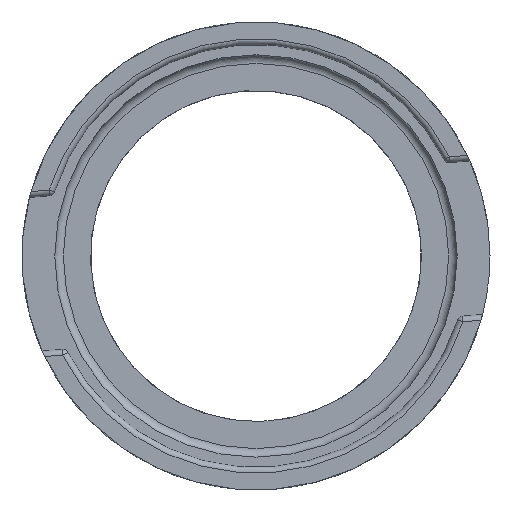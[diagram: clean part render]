
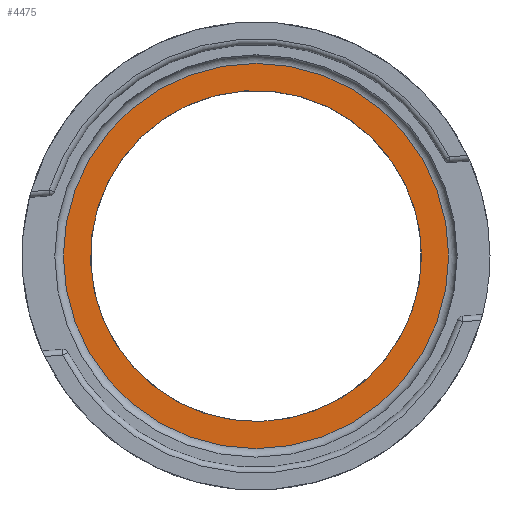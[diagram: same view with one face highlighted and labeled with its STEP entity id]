
A CAD part, top view. The second image highlights one B-rep face of the part: STEP entity #4475.
In plain terms, the highlighted planar face has unit normal (0, 0, 1).
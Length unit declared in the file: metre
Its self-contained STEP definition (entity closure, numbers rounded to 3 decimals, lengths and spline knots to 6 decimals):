
#620=CIRCLE('',#4843,0.03375);
#621=CIRCLE('',#4844,0.029);
#1470=ORIENTED_EDGE('',*,*,#2650,.T.);
#1471=ORIENTED_EDGE('',*,*,#2651,.T.);
#2650=EDGE_CURVE('',#3159,#3159,#620,.F.);
#2651=EDGE_CURVE('',#3160,#3160,#621,.T.);
#3159=VERTEX_POINT('',#11461);
#3160=VERTEX_POINT('',#11463);
#3735=EDGE_LOOP('',(#1470));
#3736=EDGE_LOOP('',(#1471));
#4039=FACE_BOUND('',#3735,.T.);
#4040=FACE_BOUND('',#3736,.T.);
#4232=PLANE('',#4842);
#4475=ADVANCED_FACE('',(#4039,#4040),#4232,.F.);
#4842=AXIS2_PLACEMENT_3D('',#11459,#5435,#5436);
#4843=AXIS2_PLACEMENT_3D('',#11460,#5437,#5438);
#4844=AXIS2_PLACEMENT_3D('',#11462,#5439,#5440);
#5435=DIRECTION('',(0.,0.,-1.));
#5436=DIRECTION('',(0.819,0.574,0.));
#5437=DIRECTION('',(0.,0.,-1.));
#5438=DIRECTION('',(1.,0.,0.));
#5439=DIRECTION('',(0.,0.,-1.));
#5440=DIRECTION('',(1.,0.,0.));
#11459=CARTESIAN_POINT('',(0.,0.,0.0768));
#11460=CARTESIAN_POINT('',(0.,0.,0.0768));
#11461=CARTESIAN_POINT('',(0.03375,0.,0.0768));
#11462=CARTESIAN_POINT('',(0.,0.,0.0768));
#11463=CARTESIAN_POINT('',(0.029,0.,0.0768));
